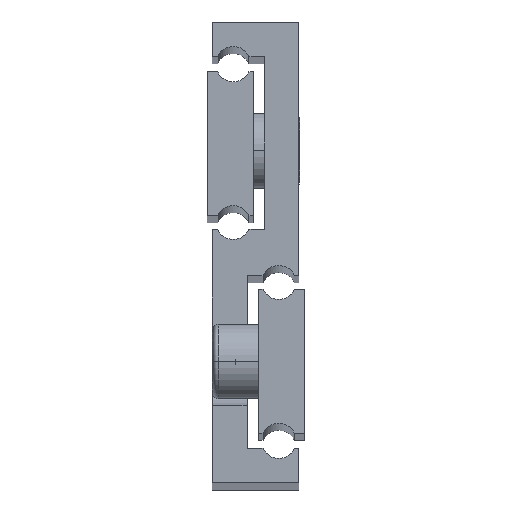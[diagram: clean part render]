
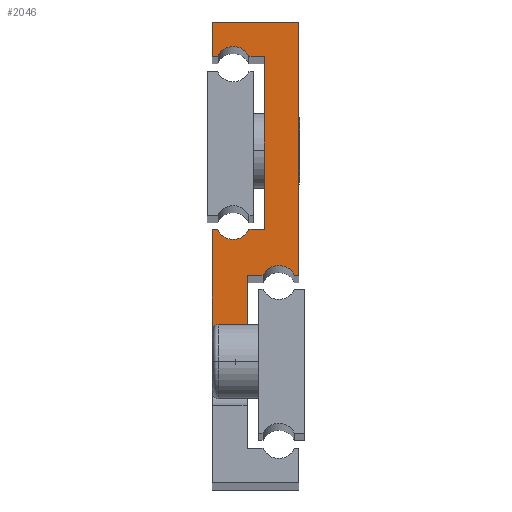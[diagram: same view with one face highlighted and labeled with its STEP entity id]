
A CAD part, top view. The second image highlights one B-rep face of the part: STEP entity #2046.
In plain terms, the highlighted planar face has unit normal (0, 0, 1).
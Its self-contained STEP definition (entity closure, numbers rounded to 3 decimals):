
#5 = CARTESIAN_POINT ( 'NONE',  ( 15., 36., 350. ) ) ;
#7 = CARTESIAN_POINT ( 'NONE',  ( 0., 26.5, 350. ) ) ;
#11 = VERTEX_POINT ( 'NONE', #339 ) ;
#69 = CARTESIAN_POINT ( 'NONE',  ( 3.6, 45.25, 350. ) ) ;
#78 = CARTESIAN_POINT ( 'NONE',  ( 0., 26.5, 350. ) ) ;
#92 = VERTEX_POINT ( 'NONE', #370 ) ;
#128 = EDGE_CURVE ( 'NONE', #1307, #92, #1236, .T. ) ;
#139 = DIRECTION ( 'NONE',  ( 0., 0., -1. ) ) ;
#150 = CARTESIAN_POINT ( 'NONE',  ( 0.872, 74., 350. ) ) ;
#171 = ORIENTED_EDGE ( 'NONE', *, *, #1801, .T. ) ;
#189 = EDGE_CURVE ( 'NONE', #354, #1087, #1817, .T. ) ;
#190 = DIRECTION ( 'NONE',  ( 0., -1., 0. ) ) ;
#231 = CARTESIAN_POINT ( 'NONE',  ( 8.773, 36., 350. ) ) ;
#243 = CARTESIAN_POINT ( 'NONE',  ( 11.5, 34.75, 350. ) ) ;
#252 = FACE_OUTER_BOUND ( 'NONE', #2105, .T. ) ;
#264 = VECTOR ( 'NONE', #2080, 1000. ) ;
#276 = ORIENTED_EDGE ( 'NONE', *, *, #189, .T. ) ;
#292 = CARTESIAN_POINT ( 'NONE',  ( 15., 80., 350. ) ) ;
#293 = CARTESIAN_POINT ( 'NONE',  ( 0., 80., 350. ) ) ;
#304 = CARTESIAN_POINT ( 'NONE',  ( 9., 74., 350. ) ) ;
#315 = DIRECTION ( 'NONE',  ( -1., 0., 0. ) ) ;
#330 = LINE ( 'NONE', #5, #1089 ) ;
#339 = CARTESIAN_POINT ( 'NONE',  ( 15., 36., 350. ) ) ;
#354 = VERTEX_POINT ( 'NONE', #1428 ) ;
#370 = CARTESIAN_POINT ( 'NONE',  ( 6., 26.5, 350. ) ) ;
#376 = ORIENTED_EDGE ( 'NONE', *, *, #1742, .T. ) ;
#402 = PLANE ( 'NONE',  #807 ) ;
#405 = VERTEX_POINT ( 'NONE', #1758 ) ;
#434 = VERTEX_POINT ( 'NONE', #150 ) ;
#475 = CARTESIAN_POINT ( 'NONE',  ( 15., 80., 350. ) ) ;
#522 = VERTEX_POINT ( 'NONE', #2024 ) ;
#529 = CIRCLE ( 'NONE', #895, 3. ) ;
#535 = LINE ( 'NONE', #2055, #1982 ) ;
#569 = DIRECTION ( 'NONE',  ( -1., 0., 0. ) ) ;
#572 = DIRECTION ( 'NONE',  ( 1., 0., 0. ) ) ;
#577 = CARTESIAN_POINT ( 'NONE',  ( 9., 74., 350. ) ) ;
#581 = EDGE_CURVE ( 'NONE', #405, #1800, #1970, .T. ) ;
#610 = DIRECTION ( 'NONE',  ( 0., 0., -1. ) ) ;
#617 = CARTESIAN_POINT ( 'NONE',  ( 0., 44., 350. ) ) ;
#633 = DIRECTION ( 'NONE',  ( 0., 1., 0. ) ) ;
#664 = VECTOR ( 'NONE', #2163, 1000. ) ;
#672 = ORIENTED_EDGE ( 'NONE', *, *, #2178, .T. ) ;
#674 = LINE ( 'NONE', #292, #1805 ) ;
#681 = ORIENTED_EDGE ( 'NONE', *, *, #581, .T. ) ;
#710 = ORIENTED_EDGE ( 'NONE', *, *, #1575, .T. ) ;
#754 = DIRECTION ( 'NONE',  ( -1., 0., 0. ) ) ;
#758 = LINE ( 'NONE', #293, #2023 ) ;
#794 = CARTESIAN_POINT ( 'NONE',  ( 6., 6., 350. ) ) ;
#807 = AXIS2_PLACEMENT_3D ( 'NONE', #69, #2136, #1277 ) ;
#812 = DIRECTION ( 'NONE',  ( 1., 0., 0. ) ) ;
#816 = DIRECTION ( 'NONE',  ( 1., 0., 0. ) ) ;
#819 = EDGE_CURVE ( 'NONE', #2131, #1772, #529, .T. ) ;
#830 = ORIENTED_EDGE ( 'NONE', *, *, #1577, .T. ) ;
#839 = DIRECTION ( 'NONE',  ( -1., 0., 0. ) ) ;
#873 = LINE ( 'NONE', #916, #2056 ) ;
#880 = VECTOR ( 'NONE', #2032, 1000. ) ;
#895 = AXIS2_PLACEMENT_3D ( 'NONE', #243, #1648, #754 ) ;
#916 = CARTESIAN_POINT ( 'NONE',  ( 8.773, 36., 350. ) ) ;
#992 = CARTESIAN_POINT ( 'NONE',  ( 6.327, 44., 350. ) ) ;
#997 = VERTEX_POINT ( 'NONE', #2014 ) ;
#1034 = LINE ( 'NONE', #1720, #1381 ) ;
#1042 = VERTEX_POINT ( 'NONE', #1864 ) ;
#1072 = VERTEX_POINT ( 'NONE', #577 ) ;
#1083 = VECTOR ( 'NONE', #839, 1000. ) ;
#1084 = CARTESIAN_POINT ( 'NONE',  ( 3.6, 45.25, 350. ) ) ;
#1087 = VERTEX_POINT ( 'NONE', #1255 ) ;
#1089 = VECTOR ( 'NONE', #1691, 1000. ) ;
#1100 = ORIENTED_EDGE ( 'NONE', *, *, #128, .T. ) ;
#1133 = ORIENTED_EDGE ( 'NONE', *, *, #1740, .T. ) ;
#1136 = DIRECTION ( 'NONE',  ( -1., 0., 0. ) ) ;
#1140 = LINE ( 'NONE', #1529, #1707 ) ;
#1160 = CARTESIAN_POINT ( 'NONE',  ( 14.227, 36., 350. ) ) ;
#1236 = LINE ( 'NONE', #78, #264 ) ;
#1255 = CARTESIAN_POINT ( 'NONE',  ( 0., 44., 350. ) ) ;
#1272 = ORIENTED_EDGE ( 'NONE', *, *, #1513, .T. ) ;
#1277 = DIRECTION ( 'NONE',  ( -1., 0., 0. ) ) ;
#1301 = EDGE_CURVE ( 'NONE', #1779, #1351, #1645, .T. ) ;
#1307 = VERTEX_POINT ( 'NONE', #7 ) ;
#1333 = CARTESIAN_POINT ( 'NONE',  ( 6.327, 44., 350. ) ) ;
#1351 = VERTEX_POINT ( 'NONE', #1540 ) ;
#1358 = ORIENTED_EDGE ( 'NONE', *, *, #1455, .T. ) ;
#1377 = ORIENTED_EDGE ( 'NONE', *, *, #1736, .T. ) ;
#1381 = VECTOR ( 'NONE', #572, 1000. ) ;
#1411 = CIRCLE ( 'NONE', #1948, 3. ) ;
#1425 = DIRECTION ( 'NONE',  ( 0., -1., 0. ) ) ;
#1428 = CARTESIAN_POINT ( 'NONE',  ( 0.872, 44., 350. ) ) ;
#1455 = EDGE_CURVE ( 'NONE', #434, #1042, #1909, .T. ) ;
#1513 = EDGE_CURVE ( 'NONE', #1087, #1307, #535, .T. ) ;
#1529 = CARTESIAN_POINT ( 'NONE',  ( 0., 74., 350. ) ) ;
#1535 = EDGE_CURVE ( 'NONE', #997, #2131, #873, .T. ) ;
#1536 = ORIENTED_EDGE ( 'NONE', *, *, #2071, .T. ) ;
#1540 = CARTESIAN_POINT ( 'NONE',  ( 0., 80., 350. ) ) ;
#1575 = EDGE_CURVE ( 'NONE', #1042, #1072, #1034, .T. ) ;
#1577 = EDGE_CURVE ( 'NONE', #1351, #522, #758, .T. ) ;
#1581 = ORIENTED_EDGE ( 'NONE', *, *, #1535, .T. ) ;
#1645 = LINE ( 'NONE', #1824, #1083 ) ;
#1648 = DIRECTION ( 'NONE',  ( 0., 0., -1. ) ) ;
#1656 = VECTOR ( 'NONE', #315, 1000. ) ;
#1667 = CARTESIAN_POINT ( 'NONE',  ( 3.6, 72.75, 350. ) ) ;
#1691 = DIRECTION ( 'NONE',  ( 1., 0., 0. ) ) ;
#1707 = VECTOR ( 'NONE', #812, 1000. ) ;
#1720 = CARTESIAN_POINT ( 'NONE',  ( 6.327, 74., 350. ) ) ;
#1736 = EDGE_CURVE ( 'NONE', #92, #997, #1973, .T. ) ;
#1740 = EDGE_CURVE ( 'NONE', #522, #434, #1140, .T. ) ;
#1742 = EDGE_CURVE ( 'NONE', #1072, #405, #2007, .T. ) ;
#1755 = DIRECTION ( 'NONE',  ( 1., 0., 0. ) ) ;
#1758 = CARTESIAN_POINT ( 'NONE',  ( 9., 44., 350. ) ) ;
#1772 = VERTEX_POINT ( 'NONE', #1160 ) ;
#1779 = VERTEX_POINT ( 'NONE', #475 ) ;
#1800 = VERTEX_POINT ( 'NONE', #1333 ) ;
#1801 = EDGE_CURVE ( 'NONE', #1772, #11, #330, .T. ) ;
#1803 = ORIENTED_EDGE ( 'NONE', *, *, #819, .T. ) ;
#1805 = VECTOR ( 'NONE', #633, 1000. ) ;
#1817 = LINE ( 'NONE', #617, #2045 ) ;
#1824 = CARTESIAN_POINT ( 'NONE',  ( 15., 80., 350. ) ) ;
#1864 = CARTESIAN_POINT ( 'NONE',  ( 6.327, 74., 350. ) ) ;
#1909 = CIRCLE ( 'NONE', #2088, 3. ) ;
#1948 = AXIS2_PLACEMENT_3D ( 'NONE', #1084, #610, #569 ) ;
#1970 = LINE ( 'NONE', #992, #1656 ) ;
#1973 = LINE ( 'NONE', #794, #664 ) ;
#1982 = VECTOR ( 'NONE', #190, 1000. ) ;
#2007 = LINE ( 'NONE', #304, #880 ) ;
#2014 = CARTESIAN_POINT ( 'NONE',  ( 6., 36., 350. ) ) ;
#2023 = VECTOR ( 'NONE', #1425, 1000. ) ;
#2024 = CARTESIAN_POINT ( 'NONE',  ( 0., 74., 350. ) ) ;
#2032 = DIRECTION ( 'NONE',  ( 0., -1., 0. ) ) ;
#2045 = VECTOR ( 'NONE', #1136, 1000. ) ;
#2046 = ADVANCED_FACE ( 'NONE', ( #252 ), #402, .F. ) ;
#2055 = CARTESIAN_POINT ( 'NONE',  ( 0., 0., 350. ) ) ;
#2056 = VECTOR ( 'NONE', #1755, 1000. ) ;
#2071 = EDGE_CURVE ( 'NONE', #1800, #354, #1411, .T. ) ;
#2080 = DIRECTION ( 'NONE',  ( 1., 0., 0. ) ) ;
#2088 = AXIS2_PLACEMENT_3D ( 'NONE', #1667, #139, #816 ) ;
#2105 = EDGE_LOOP ( 'NONE', ( #1272, #1100, #1377, #1581, #1803, #171, #672, #2150, #830, #1133, #1358, #710, #376, #681, #1536, #276 ) ) ;
#2131 = VERTEX_POINT ( 'NONE', #231 ) ;
#2136 = DIRECTION ( 'NONE',  ( 0., 0., -1. ) ) ;
#2150 = ORIENTED_EDGE ( 'NONE', *, *, #1301, .T. ) ;
#2163 = DIRECTION ( 'NONE',  ( 0., 1., 0. ) ) ;
#2178 = EDGE_CURVE ( 'NONE', #11, #1779, #674, .T. ) ;
